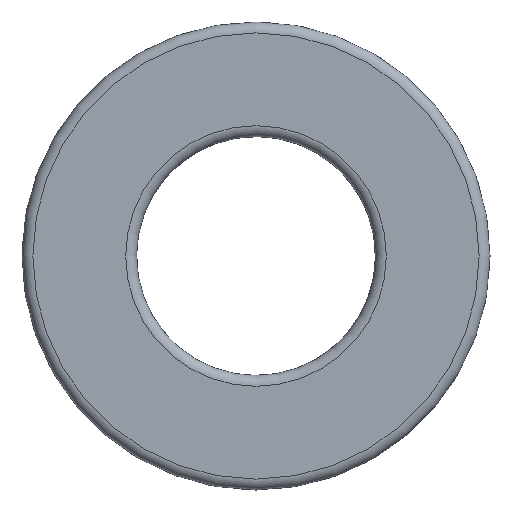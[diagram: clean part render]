
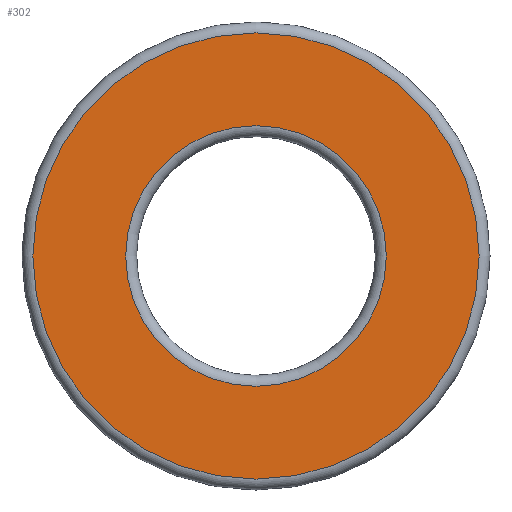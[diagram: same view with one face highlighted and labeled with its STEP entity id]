
A CAD part, front view. The second image highlights one B-rep face of the part: STEP entity #302.
In plain terms, the highlighted planar face has unit normal (0, -1, 0).
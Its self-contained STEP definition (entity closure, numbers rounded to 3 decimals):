
#44=FACE_BOUND('',#76,.T.);
#55=FACE_OUTER_BOUND('',#75,.T.);
#75=EDGE_LOOP('',(#220,#221));
#76=EDGE_LOOP('',(#222,#223));
#101=CIRCLE('',#350,20.5);
#102=CIRCLE('',#351,20.5);
#105=CIRCLE('',#356,11.975);
#106=CIRCLE('',#357,11.975);
#132=VERTEX_POINT('',#523);
#133=VERTEX_POINT('',#525);
#136=VERTEX_POINT('',#535);
#137=VERTEX_POINT('',#536);
#164=EDGE_CURVE('',#132,#133,#101,.T.);
#165=EDGE_CURVE('',#133,#132,#102,.T.);
#169=EDGE_CURVE('',#136,#137,#105,.T.);
#170=EDGE_CURVE('',#137,#136,#106,.T.);
#220=ORIENTED_EDGE('',*,*,#165,.F.);
#221=ORIENTED_EDGE('',*,*,#164,.F.);
#222=ORIENTED_EDGE('',*,*,#169,.F.);
#223=ORIENTED_EDGE('',*,*,#170,.F.);
#272=PLANE('',#355);
#302=ADVANCED_FACE('',(#55,#44),#272,.T.);
#350=AXIS2_PLACEMENT_3D('',#526,#422,#423);
#351=AXIS2_PLACEMENT_3D('',#527,#424,#425);
#355=AXIS2_PLACEMENT_3D('',#534,#433,#434);
#356=AXIS2_PLACEMENT_3D('',#537,#435,#436);
#357=AXIS2_PLACEMENT_3D('',#538,#437,#438);
#422=DIRECTION('center_axis',(0.,1.,0.));
#423=DIRECTION('ref_axis',(0.,0.,
-1.));
#424=DIRECTION('center_axis',(0.,1.,0.));
#425=DIRECTION('ref_axis',(0.,0.,
-1.));
#433=DIRECTION('center_axis',(0.,-1.,0.));
#434=DIRECTION('ref_axis',(0.,0.,-1.));
#435=DIRECTION('center_axis',(0.,-1.,0.));
#436=DIRECTION('ref_axis',(0.,0.,-1.));
#437=DIRECTION('center_axis',(0.,-1.,0.));
#438=DIRECTION('ref_axis',(0.,0.,-1.));
#523=CARTESIAN_POINT('',(10.975,0.,-20.5));
#525=CARTESIAN_POINT('',(10.975,0.,20.5));
#526=CARTESIAN_POINT('Origin',(10.975,0.,0.));
#527=CARTESIAN_POINT('Origin',(10.975,0.,0.));
#534=CARTESIAN_POINT('Origin',(10.975,0.,-16.238));
#535=CARTESIAN_POINT('',(10.975,0.,11.975));
#536=CARTESIAN_POINT('',(10.975,0.,-11.975));
#537=CARTESIAN_POINT('Origin',(10.975,0.,0.));
#538=CARTESIAN_POINT('Origin',(10.975,0.,0.));
